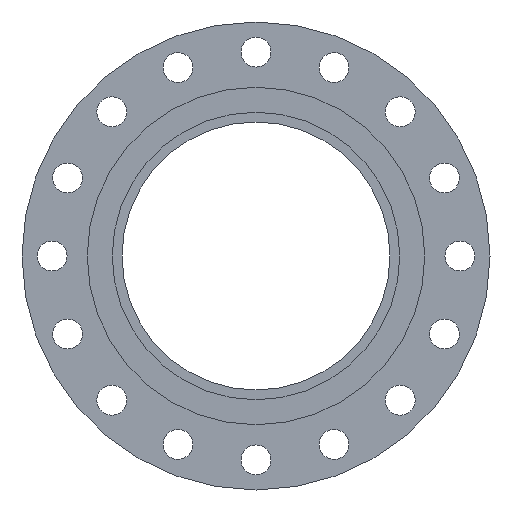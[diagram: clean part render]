
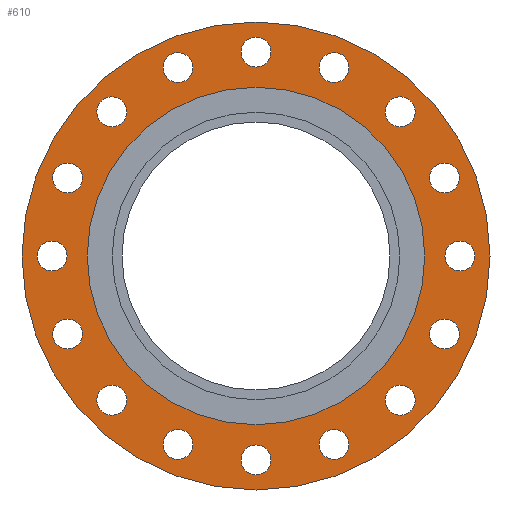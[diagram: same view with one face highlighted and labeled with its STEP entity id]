
A CAD part, left-side view. The second image highlights one B-rep face of the part: STEP entity #610.
In plain terms, the highlighted planar face has unit normal (-1, 0, 0).
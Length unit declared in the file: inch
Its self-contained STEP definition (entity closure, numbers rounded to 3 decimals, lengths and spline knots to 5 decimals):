
#14=FACE_BOUND('',#104,.T.);
#15=FACE_BOUND('',#105,.T.);
#16=FACE_BOUND('',#106,.T.);
#17=FACE_BOUND('',#107,.T.);
#18=FACE_BOUND('',#108,.T.);
#19=FACE_BOUND('',#109,.T.);
#20=FACE_BOUND('',#110,.T.);
#21=FACE_BOUND('',#111,.T.);
#22=FACE_BOUND('',#112,.T.);
#23=FACE_BOUND('',#113,.T.);
#24=FACE_BOUND('',#114,.T.);
#25=FACE_BOUND('',#115,.T.);
#26=FACE_BOUND('',#116,.T.);
#27=FACE_BOUND('',#117,.T.);
#28=FACE_BOUND('',#118,.T.);
#29=FACE_BOUND('',#119,.T.);
#30=FACE_BOUND('',#120,.T.);
#52=PLANE('',#694);
#75=FACE_OUTER_BOUND('',#103,.T.);
#103=EDGE_LOOP('',(#456,#457));
#104=EDGE_LOOP('',(#458));
#105=EDGE_LOOP('',(#459));
#106=EDGE_LOOP('',(#460));
#107=EDGE_LOOP('',(#461));
#108=EDGE_LOOP('',(#462));
#109=EDGE_LOOP('',(#463));
#110=EDGE_LOOP('',(#464));
#111=EDGE_LOOP('',(#465));
#112=EDGE_LOOP('',(#466));
#113=EDGE_LOOP('',(#467));
#114=EDGE_LOOP('',(#468));
#115=EDGE_LOOP('',(#469));
#116=EDGE_LOOP('',(#470));
#117=EDGE_LOOP('',(#471));
#118=EDGE_LOOP('',(#472));
#119=EDGE_LOOP('',(#473));
#120=EDGE_LOOP('',(#474,#475));
#197=CIRCLE('',#643,0.56);
#199=CIRCLE('',#646,0.56);
#201=CIRCLE('',#649,0.56);
#203=CIRCLE('',#652,0.56);
#205=CIRCLE('',#655,0.56);
#207=CIRCLE('',#658,0.56);
#209=CIRCLE('',#661,0.56);
#211=CIRCLE('',#664,0.56);
#213=CIRCLE('',#667,0.56);
#215=CIRCLE('',#670,0.56);
#217=CIRCLE('',#673,0.56);
#219=CIRCLE('',#676,0.56);
#221=CIRCLE('',#679,0.56);
#223=CIRCLE('',#682,0.56);
#225=CIRCLE('',#685,0.56);
#227=CIRCLE('',#688,0.56);
#228=CIRCLE('',#690,8.75);
#229=CIRCLE('',#691,8.75);
#232=CIRCLE('',#695,6.31);
#233=CIRCLE('',#696,6.31);
#253=VERTEX_POINT('',#921);
#255=VERTEX_POINT('',#927);
#257=VERTEX_POINT('',#933);
#259=VERTEX_POINT('',#939);
#261=VERTEX_POINT('',#945);
#263=VERTEX_POINT('',#951);
#265=VERTEX_POINT('',#957);
#267=VERTEX_POINT('',#963);
#269=VERTEX_POINT('',#969);
#271=VERTEX_POINT('',#975);
#273=VERTEX_POINT('',#981);
#275=VERTEX_POINT('',#987);
#277=VERTEX_POINT('',#993);
#279=VERTEX_POINT('',#999);
#281=VERTEX_POINT('',#1005);
#283=VERTEX_POINT('',#1011);
#284=VERTEX_POINT('',#1015);
#285=VERTEX_POINT('',#1016);
#288=VERTEX_POINT('',#1025);
#289=VERTEX_POINT('',#1026);
#310=EDGE_CURVE('',#253,#253,#197,.T.);
#313=EDGE_CURVE('',#255,#255,#199,.T.);
#316=EDGE_CURVE('',#257,#257,#201,.T.);
#319=EDGE_CURVE('',#259,#259,#203,.T.);
#322=EDGE_CURVE('',#261,#261,#205,.T.);
#325=EDGE_CURVE('',#263,#263,#207,.T.);
#328=EDGE_CURVE('',#265,#265,#209,.T.);
#331=EDGE_CURVE('',#267,#267,#211,.T.);
#334=EDGE_CURVE('',#269,#269,#213,.T.);
#337=EDGE_CURVE('',#271,#271,#215,.T.);
#340=EDGE_CURVE('',#273,#273,#217,.T.);
#343=EDGE_CURVE('',#275,#275,#219,.T.);
#346=EDGE_CURVE('',#277,#277,#221,.T.);
#349=EDGE_CURVE('',#279,#279,#223,.T.);
#352=EDGE_CURVE('',#281,#281,#225,.T.);
#355=EDGE_CURVE('',#283,#283,#227,.T.);
#356=EDGE_CURVE('',#284,#285,#228,.T.);
#357=EDGE_CURVE('',#285,#284,#229,.T.);
#361=EDGE_CURVE('',#288,#289,#232,.T.);
#362=EDGE_CURVE('',#289,#288,#233,.T.);
#456=ORIENTED_EDGE('',*,*,#356,.T.);
#457=ORIENTED_EDGE('',*,*,#357,.T.);
#458=ORIENTED_EDGE('',*,*,#310,.T.);
#459=ORIENTED_EDGE('',*,*,#313,.T.);
#460=ORIENTED_EDGE('',*,*,#316,.T.);
#461=ORIENTED_EDGE('',*,*,#319,.T.);
#462=ORIENTED_EDGE('',*,*,#322,.T.);
#463=ORIENTED_EDGE('',*,*,#325,.T.);
#464=ORIENTED_EDGE('',*,*,#328,.T.);
#465=ORIENTED_EDGE('',*,*,#331,.T.);
#466=ORIENTED_EDGE('',*,*,#334,.T.);
#467=ORIENTED_EDGE('',*,*,#337,.T.);
#468=ORIENTED_EDGE('',*,*,#340,.T.);
#469=ORIENTED_EDGE('',*,*,#343,.T.);
#470=ORIENTED_EDGE('',*,*,#346,.T.);
#471=ORIENTED_EDGE('',*,*,#349,.T.);
#472=ORIENTED_EDGE('',*,*,#352,.T.);
#473=ORIENTED_EDGE('',*,*,#355,.T.);
#474=ORIENTED_EDGE('',*,*,#361,.F.);
#475=ORIENTED_EDGE('',*,*,#362,.F.);
#610=ADVANCED_FACE('',(#75,#14,#15,#16,#17,#18,#19,#20,#21,#22,#23,#24,
#25,#26,#27,#28,#29,#30),#52,.T.);
#643=AXIS2_PLACEMENT_3D('',#923,#732,#733);
#646=AXIS2_PLACEMENT_3D('',#929,#739,#740);
#649=AXIS2_PLACEMENT_3D('',#935,#746,#747);
#652=AXIS2_PLACEMENT_3D('',#941,#753,#754);
#655=AXIS2_PLACEMENT_3D('',#947,#760,#761);
#658=AXIS2_PLACEMENT_3D('',#953,#767,#768);
#661=AXIS2_PLACEMENT_3D('',#959,#774,#775);
#664=AXIS2_PLACEMENT_3D('',#965,#781,#782);
#667=AXIS2_PLACEMENT_3D('',#971,#788,#789);
#670=AXIS2_PLACEMENT_3D('',#977,#795,#796);
#673=AXIS2_PLACEMENT_3D('',#983,#802,#803);
#676=AXIS2_PLACEMENT_3D('',#989,#809,#810);
#679=AXIS2_PLACEMENT_3D('',#995,#816,#817);
#682=AXIS2_PLACEMENT_3D('',#1001,#823,#824);
#685=AXIS2_PLACEMENT_3D('',#1007,#830,#831);
#688=AXIS2_PLACEMENT_3D('',#1013,#837,#838);
#690=AXIS2_PLACEMENT_3D('',#1017,#841,#842);
#691=AXIS2_PLACEMENT_3D('',#1018,#843,#844);
#694=AXIS2_PLACEMENT_3D('',#1024,#850,#851);
#695=AXIS2_PLACEMENT_3D('',#1027,#852,#853);
#696=AXIS2_PLACEMENT_3D('',#1028,#854,#855);
#732=DIRECTION('center_axis',(1.,0.,0.));
#733=DIRECTION('ref_axis',(0.,-0.383,0.924));
#739=DIRECTION('center_axis',(1.,0.,0.));
#740=DIRECTION('ref_axis',(0.,-0.707,0.707));
#746=DIRECTION('center_axis',(1.,0.,0.));
#747=DIRECTION('ref_axis',(0.,-0.924,0.383));
#753=DIRECTION('center_axis',(1.,0.,0.));
#754=DIRECTION('ref_axis',(0.,-1.,0.));
#760=DIRECTION('center_axis',(1.,0.,0.));
#761=DIRECTION('ref_axis',(0.,-0.924,-0.383));
#767=DIRECTION('center_axis',(1.,0.,0.));
#768=DIRECTION('ref_axis',(0.,-0.707,-0.707));
#774=DIRECTION('center_axis',(1.,0.,0.));
#775=DIRECTION('ref_axis',(0.,-0.383,-0.924));
#781=DIRECTION('center_axis',(1.,0.,0.));
#782=DIRECTION('ref_axis',(0.,0.,-1.));
#788=DIRECTION('center_axis',(1.,0.,0.));
#789=DIRECTION('ref_axis',(0.,0.383,-0.924));
#795=DIRECTION('center_axis',(1.,0.,0.));
#796=DIRECTION('ref_axis',(0.,0.707,-0.707));
#802=DIRECTION('center_axis',(1.,0.,0.));
#803=DIRECTION('ref_axis',(0.,0.924,-0.383));
#809=DIRECTION('center_axis',(1.,0.,0.));
#810=DIRECTION('ref_axis',(0.,1.,0.));
#816=DIRECTION('center_axis',(1.,0.,0.));
#817=DIRECTION('ref_axis',(0.,0.924,0.383));
#823=DIRECTION('center_axis',(1.,0.,0.));
#824=DIRECTION('ref_axis',(0.,0.707,0.707));
#830=DIRECTION('center_axis',(1.,0.,0.));
#831=DIRECTION('ref_axis',(0.,0.383,0.924));
#837=DIRECTION('center_axis',(1.,0.,0.));
#838=DIRECTION('ref_axis',(0.,0.,1.));
#841=DIRECTION('center_axis',(-1.,0.,0.));
#842=DIRECTION('ref_axis',(0.,0.,1.));
#843=DIRECTION('center_axis',(-1.,0.,0.));
#844=DIRECTION('ref_axis',(0.,0.,1.));
#850=DIRECTION('center_axis',(-1.,0.,0.));
#851=DIRECTION('ref_axis',(0.,0.,1.));
#852=DIRECTION('center_axis',(-1.,0.,0.));
#853=DIRECTION('ref_axis',(0.,0.,1.));
#854=DIRECTION('center_axis',(-1.,0.,0.));
#855=DIRECTION('ref_axis',(0.,0.,1.));
#921=CARTESIAN_POINT('',(-1.88,3.13226,-7.56195));
#923=CARTESIAN_POINT('Origin',(-1.88,2.91796,-7.04458));
#927=CARTESIAN_POINT('',(-1.88,5.78767,-5.78767));
#929=CARTESIAN_POINT('Origin',(-1.88,5.39169,-5.39169));
#933=CARTESIAN_POINT('',(-1.88,7.56195,-3.13226));
#935=CARTESIAN_POINT('Origin',(-1.88,7.04458,-2.91796));
#939=CARTESIAN_POINT('',(-1.88,8.185,0.));
#941=CARTESIAN_POINT('Origin',(-1.88,7.625,0.));
#945=CARTESIAN_POINT('',(-1.88,7.56195,3.13226));
#947=CARTESIAN_POINT('Origin',(-1.88,7.04458,2.91796));
#951=CARTESIAN_POINT('',(-1.88,5.78767,5.78767));
#953=CARTESIAN_POINT('Origin',(-1.88,5.39169,5.39169));
#957=CARTESIAN_POINT('',(-1.88,3.13226,7.56195));
#959=CARTESIAN_POINT('Origin',(-1.88,2.91796,7.04458));
#963=CARTESIAN_POINT('',(-1.88,0.,8.185));
#965=CARTESIAN_POINT('Origin',(-1.88,0.,7.625));
#969=CARTESIAN_POINT('',(-1.88,-3.13226,7.56195));
#971=CARTESIAN_POINT('Origin',(-1.88,-2.91796,7.04458));
#975=CARTESIAN_POINT('',(-1.88,-5.78767,5.78767));
#977=CARTESIAN_POINT('Origin',(-1.88,-5.39169,5.39169));
#981=CARTESIAN_POINT('',(-1.88,-7.56195,3.13226));
#983=CARTESIAN_POINT('Origin',(-1.88,-7.04458,2.91796));
#987=CARTESIAN_POINT('',(-1.88,-8.185,0.));
#989=CARTESIAN_POINT('Origin',(-1.88,-7.625,0.));
#993=CARTESIAN_POINT('',(-1.88,-7.56195,-3.13226));
#995=CARTESIAN_POINT('Origin',(-1.88,-7.04458,-2.91796));
#999=CARTESIAN_POINT('',(-1.88,-5.78767,-5.78767));
#1001=CARTESIAN_POINT('Origin',(-1.88,-5.39169,-5.39169));
#1005=CARTESIAN_POINT('',(-1.88,-3.13226,-7.56195));
#1007=CARTESIAN_POINT('Origin',(-1.88,-2.91796,-7.04458));
#1011=CARTESIAN_POINT('',(-1.88,0.,-8.185));
#1013=CARTESIAN_POINT('Origin',(-1.88,0.,-7.625));
#1015=CARTESIAN_POINT('',(-1.88,0.,8.75));
#1016=CARTESIAN_POINT('',(-1.88,0.,-8.75));
#1017=CARTESIAN_POINT('Origin',(-1.88,0.,0.));
#1018=CARTESIAN_POINT('Origin',(-1.88,0.,0.));
#1024=CARTESIAN_POINT('Origin',(-1.88,0.,7.53));
#1025=CARTESIAN_POINT('',(-1.88,0.,6.31));
#1026=CARTESIAN_POINT('',(-1.88,0.,-6.31));
#1027=CARTESIAN_POINT('Origin',(-1.88,0.,0.));
#1028=CARTESIAN_POINT('Origin',(-1.88,0.,0.));
